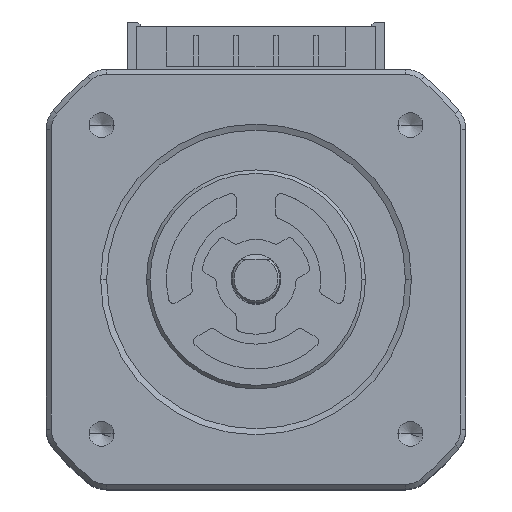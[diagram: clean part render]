
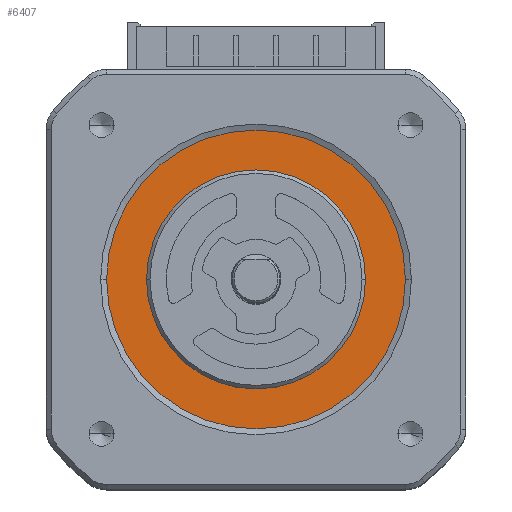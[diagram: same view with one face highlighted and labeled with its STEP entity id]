
A CAD part, top view. The second image highlights one B-rep face of the part: STEP entity #6407.
In plain terms, the highlighted planar face has unit normal (0, 0, 1).
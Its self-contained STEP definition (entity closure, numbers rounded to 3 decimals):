
#986 = EDGE_LOOP ( 'NONE', ( #13808, #6950 ) ) ;
#1491 = CARTESIAN_POINT ( 'NONE',  ( 15., 0., -0.3 ) ) ;
#1689 = VERTEX_POINT ( 'NONE', #13348 ) ;
#2320 = CARTESIAN_POINT ( 'NONE',  ( 10.995, 0., -0.3 ) ) ;
#2402 = VERTEX_POINT ( 'NONE', #13901 ) ;
#2649 = AXIS2_PLACEMENT_3D ( 'NONE', #12119, #5677, #13187 ) ;
#2907 = CARTESIAN_POINT ( 'NONE',  ( 0., 15., -0.3 ) ) ;
#3796 = CIRCLE ( 'NONE', #4525, 10.995 ) ;
#4017 = CARTESIAN_POINT ( 'NONE',  ( 0., 0., -0.3 ) ) ;
#4123 = ORIENTED_EDGE ( 'NONE', *, *, #13559, .F. ) ;
#4332 = EDGE_CURVE ( 'NONE', #6681, #2402, #3796, .T. ) ;
#4525 = AXIS2_PLACEMENT_3D ( 'NONE', #4017, #11528, #5110 ) ;
#5022 = CARTESIAN_POINT ( 'NONE',  ( 0., 0., -0.3 ) ) ;
#5097 = PLANE ( 'NONE',  #5990 ) ;
#5110 = DIRECTION ( 'NONE',  ( 1., 0., 0. ) ) ;
#5536 = DIRECTION ( 'NONE',  ( 0., 0., 1. ) ) ;
#5666 = ORIENTED_EDGE ( 'NONE', *, *, #4332, .F. ) ;
#5677 = DIRECTION ( 'NONE',  ( 0., 0., 1. ) ) ;
#5763 = EDGE_LOOP ( 'NONE', ( #4123, #5666 ) ) ;
#5990 = AXIS2_PLACEMENT_3D ( 'NONE', #2907, #6177, #13704 ) ;
#6102 = DIRECTION ( 'NONE',  ( 1., 0., 0. ) ) ;
#6177 = DIRECTION ( 'NONE',  ( 0., 0., 1. ) ) ;
#6407 = ADVANCED_FACE ( 'NONE', ( #12302, #6589 ), #5097, .T. ) ;
#6589 = FACE_BOUND ( 'NONE', #5763, .T. ) ;
#6681 = VERTEX_POINT ( 'NONE', #2320 ) ;
#6950 = ORIENTED_EDGE ( 'NONE', *, *, #8732, .T. ) ;
#7007 = AXIS2_PLACEMENT_3D ( 'NONE', #5022, #12541, #6102 ) ;
#7888 = EDGE_CURVE ( 'NONE', #8034, #1689, #10578, .T. ) ;
#8034 = VERTEX_POINT ( 'NONE', #1491 ) ;
#8732 = EDGE_CURVE ( 'NONE', #1689, #8034, #10126, .T. ) ;
#8803 = AXIS2_PLACEMENT_3D ( 'NONE', #11973, #5536, #13055 ) ;
#8924 = CIRCLE ( 'NONE', #2649, 10.995 ) ;
#10126 = CIRCLE ( 'NONE', #7007, 15. ) ;
#10578 = CIRCLE ( 'NONE', #8803, 15. ) ;
#11528 = DIRECTION ( 'NONE',  ( 0., 0., 1. ) ) ;
#11973 = CARTESIAN_POINT ( 'NONE',  ( 0., 0., -0.3 ) ) ;
#12119 = CARTESIAN_POINT ( 'NONE',  ( 0., 0., -0.3 ) ) ;
#12302 = FACE_OUTER_BOUND ( 'NONE', #986, .T. ) ;
#12541 = DIRECTION ( 'NONE',  ( 0., 0., 1. ) ) ;
#13055 = DIRECTION ( 'NONE',  ( 1., 0., 0. ) ) ;
#13187 = DIRECTION ( 'NONE',  ( 1., 0., 0. ) ) ;
#13348 = CARTESIAN_POINT ( 'NONE',  ( -15., 0., -0.3 ) ) ;
#13559 = EDGE_CURVE ( 'NONE', #2402, #6681, #8924, .T. ) ;
#13704 = DIRECTION ( 'NONE',  ( 1., 0., 0. ) ) ;
#13808 = ORIENTED_EDGE ( 'NONE', *, *, #7888, .T. ) ;
#13901 = CARTESIAN_POINT ( 'NONE',  ( -10.995, 0., -0.3 ) ) ;
